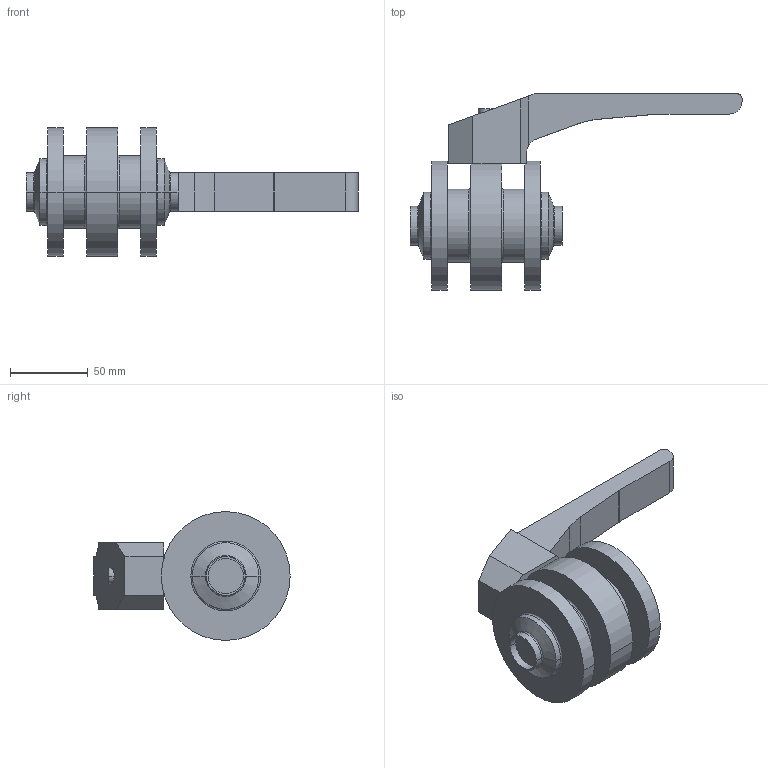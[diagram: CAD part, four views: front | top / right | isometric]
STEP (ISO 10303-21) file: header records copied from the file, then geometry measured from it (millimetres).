
FILE_DESCRIPTION(('OneSpaceDesigner STEP Export'),'2;1');
FILE_NAME('SVS1F-1zoll-H-12S.stp','2007-04-23T13:51:58',(''),(''),'OneSpace Designer STEP processor for AP214 (Solid Model)','OneSpace Modeling 15.00 06-Feb-2007 (C) CoCreate Software GmbH','');
FILE_SCHEMA(('AUTOMOTIVE_DESIGN { 1 0 10303 214 1 1 1 1 }'));
Length unit declared in the file: millimetre
Products named in the file (3): SVS1F-1zoll-H-12S; Handhebel-SV-40-100; SVS1F-1zoll-H-12S-vereint
Assembly tree (2 placements, depth 2):
  SVS1F-1zoll-H-12S-vereint
    Handhebel-SV-40-100
    SVS1F-1zoll-H-12S
Bounding box: 214 x 126.5 x 83 mm (x, y, z)
Volume: 418382.4 mm3; surface area: 64257.3 mm2
Topology: 2 solids, 2 shells, 76 faces, 167 edges, 104 vertices
Faces by surface type: cylinder 31, plane 29, torus 12, cone 4
Entity records: 2305 total; most frequent: CARTESIAN_POINT 693, ORIENTED_EDGE 334, DIRECTION 303, EDGE_CURVE 167, AXIS2_PLACEMENT_3D 113, VERTEX_POINT 104, EDGE_LOOP 85, VECTOR 77
